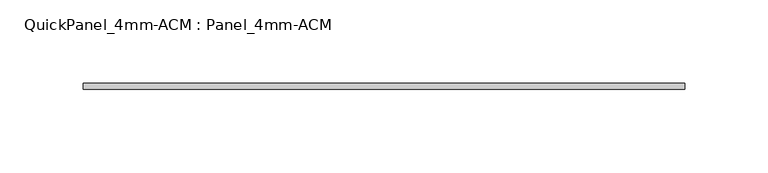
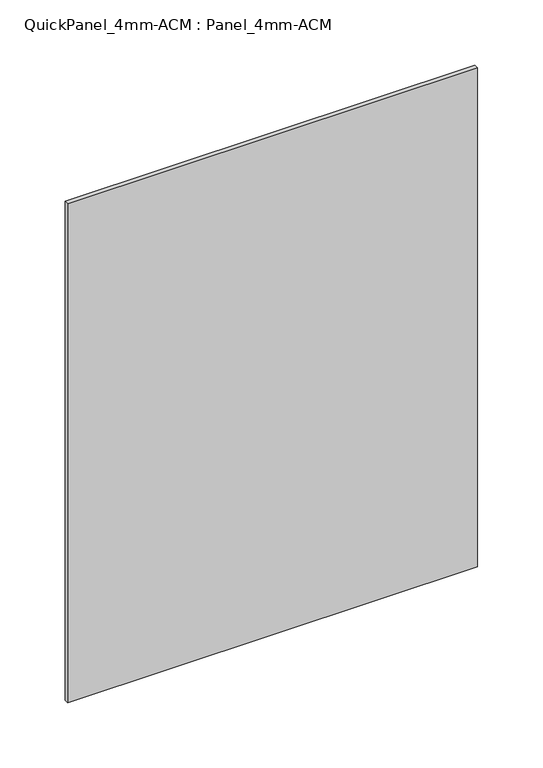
"""IFC4 building model written with IfcOpenShell, lengths in millimetres: plate geometry, QuickPanel_4mm-ACM : Panel_4mm-ACM."""

import ifcopenshell
import ifcopenshell.guid

model = None  # the IFC model being written
_history = None  # IfcOwnerHistory: only IFC2X3 demands one
_inside = {}  # id of a spatial element -> (the spatial element, [elements in it])
_under = {}  # id of a project, library or spatial element -> (it, [spatial elements below it])
_declared = {}  # id of a project -> (the project, [libraries it declares])
_typed = {}  # id of a type object -> (the type object, [elements of that type])
_made_of = {}  # id of a material, layer set ... -> (it, [elements and type objects made of it])


def new_model(schema):
    """Start an empty IFC model of exactly this schema.

    Asked for "IFC4X3", IfcOpenShell would pick the latest addendum, in which some entities
    have other attributes; the version numbers below select the first issue.
    IFC2X3 requires an IfcOwnerHistory on every rooted entity: one is made here for all.
    """
    global model, _history
    if schema == "IFC4X3":
        model = ifcopenshell.file(schema_version=(4, 3, 0, 0))
    else:
        model = ifcopenshell.file(schema=schema)
    _inside.clear()
    _under.clear()
    _declared.clear()
    _typed.clear()
    _made_of.clear()
    _history = None
    if model.schema == "IFC2X3":
        org = make("IfcOrganization", Name="unknown")
        user = make(
            "IfcPersonAndOrganization",
            ThePerson=make("IfcPerson", FamilyName="unknown"),
            TheOrganization=org,
        )
        app = make(
            "IfcApplication",
            ApplicationDeveloper=org,
            Version="unknown",
            ApplicationFullName="unknown",
            ApplicationIdentifier="unknown",
        )
        _history = make(
            "IfcOwnerHistory",
            OwningUser=user,
            OwningApplication=app,
            ChangeAction="ADDED",
            CreationDate=0,
        )
    return model


def make(cls, **values):
    """One entity of the class cls with the attributes given. An attribute that is None is left unset."""
    return model.create_entity(
        cls, **{name: value for name, value in values.items() if value is not None}
    )


def rooted(cls, **values):
    """An entity with a GlobalId (a new one), such as an element, a storey or a relation."""
    return make(cls, GlobalId=ifcopenshell.guid.new(), OwnerHistory=_history, **values)


def si_unit(unit_type, name, prefix=None):
    """IfcSIUnit, for example si_unit("LENGTHUNIT", "METRE", prefix="MILLI")."""
    return make("IfcSIUnit", UnitType=unit_type, Prefix=prefix, Name=name)


def assignment(units):
    """IfcUnitAssignment: the units of a project."""
    return None if units is None else make("IfcUnitAssignment", Units=units)


def point(xyz):
    """IfcCartesianPoint."""
    return None if xyz is None else make("IfcCartesianPoint", Coordinates=xyz)


def direction(xyz):
    """IfcDirection."""
    return None if xyz is None else make("IfcDirection", DirectionRatios=xyz)


def frame(location, z_axis=None, x_axis=None):
    """IfcAxis2Placement3D, a coordinate frame: its origin and axes. An axis left out is left unset."""
    return make(
        "IfcAxis2Placement3D",
        Location=point(location),
        Axis=direction(z_axis),
        RefDirection=direction(x_axis),
    )


def origin():
    """The frame at (0, 0, 0) with its axes left unset."""
    return frame((0.0, 0.0, 0.0))


def origin_with_axes():
    """The frame at (0, 0, 0) with the z axis (0, 0, 1) and the x axis (1, 0, 0) written out."""
    return frame((0.0, 0.0, 0.0), z_axis=(0.0, 0.0, 1.0), x_axis=(1.0, 0.0, 0.0))


def place(relative_to, where):
    """IfcLocalPlacement: puts the frame where relative to a parent placement (None: the world)."""
    return make(
        "IfcLocalPlacement", PlacementRelTo=relative_to, RelativePlacement=where
    )


def context(
    kind, dimensions, precision=None, world=None, true_north=None, identifier=None
):
    """IfcGeometricRepresentationContext, for example the 3D "Model" context."""
    return make(
        "IfcGeometricRepresentationContext",
        ContextIdentifier=identifier,
        ContextType=kind,
        CoordinateSpaceDimension=dimensions,
        Precision=precision,
        WorldCoordinateSystem=world,
        TrueNorth=true_north,
    )


def project(units=None, contexts=None):
    """IfcProject with its units and contexts."""
    return rooted(
        "IfcProject",
        Name="project",
        RepresentationContexts=contexts,
        UnitsInContext=assignment(units),
    )


def spatial(cls, under=None, at=None, **own):
    """A site, building, storey or space (cls), placed at a placement, below another one or the project."""
    s = rooted(cls, ObjectPlacement=at, **own)
    if under is not None:
        _under.setdefault(under.id(), (under, []))[1].append(s)
    return s


def polyline(points):
    """IfcPolyline through the points."""
    return make("IfcPolyline", Points=[point(p) for p in points])


def outline(outer, holes=None, kind="AREA"):
    """IfcArbitraryClosedProfileDef: a profile drawn as a closed curve; with holes, ...WithVoids."""
    if holes is None:
        return make("IfcArbitraryClosedProfileDef", ProfileType=kind, OuterCurve=outer)
    return make(
        "IfcArbitraryProfileDefWithVoids",
        ProfileType=kind,
        OuterCurve=outer,
        InnerCurves=holes,
    )


def extrude(swept, where, along, depth):
    """IfcExtrudedAreaSolid: the profile swept, set in the frame where, extruded along a direction by depth."""
    return make(
        "IfcExtrudedAreaSolid",
        SweptArea=swept,
        Position=where,
        ExtrudedDirection=direction(along),
        Depth=depth,
    )


def shape(context_of_items, identifier, shape_type, items):
    """IfcShapeRepresentation: the items that make up one representation, for example the "Body"."""
    return make(
        "IfcShapeRepresentation",
        ContextOfItems=context_of_items,
        RepresentationIdentifier=identifier,
        RepresentationType=shape_type,
        Items=items,
    )


def source(mapping_origin, context_of_items, identifier, shape_type, items):
    """IfcRepresentationMap: a shape defined once, which mapped items show again and again."""
    return make(
        "IfcRepresentationMap",
        MappingOrigin=mapping_origin,
        MappedRepresentation=shape(context_of_items, identifier, shape_type, items),
    )


def transform(
    local_origin,
    x_axis=None,
    y_axis=None,
    z_axis=None,
    scale=None,
    scale2=None,
    scale3=None,
    uniform=True,
):
    """IfcCartesianTransformationOperator3D, or its non-uniform kind. x_axis, y_axis, z_axis: its Axis1, 2, 3."""
    if uniform:
        return make(
            "IfcCartesianTransformationOperator3D",
            Axis1=direction(x_axis),
            Axis2=direction(y_axis),
            LocalOrigin=point(local_origin),
            Scale=scale,
            Axis3=direction(z_axis),
        )
    return make(
        "IfcCartesianTransformationOperator3DnonUniform",
        Axis1=direction(x_axis),
        Axis2=direction(y_axis),
        LocalOrigin=point(local_origin),
        Scale=scale,
        Axis3=direction(z_axis),
        Scale2=scale2,
        Scale3=scale3,
    )


def mapped(mapping_source, mapping_target):
    """IfcMappedItem: shows the shape of a source again, moved by a transform."""
    return make(
        "IfcMappedItem", MappingSource=mapping_source, MappingTarget=mapping_target
    )


def made_of(thing, what):
    """Note that an element or type object is made of a material, layer set ...; save() writes the relation."""
    if what is not None:
        _made_of.setdefault(what.id(), (what, []))[1].append(thing)
    return thing


def element(
    cls,
    number,
    at=None,
    inside=None,
    cuts=None,
    type_object=None,
    material=None,
    context=None,
    identifier="Body",
    shape_type=None,
    held_by="IfcProductDefinitionShape",
    body=None,
    shapes=None,
    **own,
):
    """One element of the class cls, such as IfcWall. Its Tag is "e" and its number.

    at: its placement. inside: the storey or other place that contains it. cuts: it is an
    opening in that element (IfcRelVoidsElement). A single representation is given by context,
    identifier, shape_type and body (its items); several are given by shapes. held_by: the class
    of the entity that holds the representations. save() writes the other relations.
    """
    e = rooted(cls, Tag="e%d" % number, ObjectPlacement=at, **own)
    if body is not None:
        shapes = [shape(context, identifier, shape_type, body)]
    if shapes is not None:
        e.Representation = make(held_by, Representations=shapes)
    if inside is not None:
        _inside.setdefault(inside.id(), (inside, []))[1].append(e)
    if cuts is not None:
        rooted(
            "IfcRelVoidsElement", RelatingBuildingElement=cuts, RelatedOpeningElement=e
        )
    if type_object is not None:
        _typed.setdefault(type_object.id(), (type_object, []))[1].append(e)
    return made_of(e, material)


def aggregate(whole, parts):
    """IfcRelAggregates: a whole, such as a stair, and the parts it consists of."""
    return rooted("IfcRelAggregates", RelatingObject=whole, RelatedObjects=parts)


def save(model, path):
    """Write the relations noted so far, then the file.

    IfcRelAggregates (storeys below a building ...), IfcRelContainedInSpatialStructure (elements
    in a storey), IfcRelDefinesByType, IfcRelAssociatesMaterial and IfcRelDeclares: one each for
    every whole, place, type object, material and project.
    """
    for whole, parts in _under.values():
        aggregate(whole, parts)
    for where, things in _inside.values():
        rooted(
            "IfcRelContainedInSpatialStructure",
            RelatedElements=things,
            RelatingStructure=where,
        )
    for kind, things in _typed.values():
        rooted("IfcRelDefinesByType", RelatedObjects=things, RelatingType=kind)
    for what, things in _made_of.values():
        rooted("IfcRelAssociatesMaterial", RelatedObjects=things, RelatingMaterial=what)
    for by, libraries in _declared.values():
        rooted("IfcRelDeclares", RelatingContext=by, RelatedDefinitions=libraries)
    model.write(path)


def quickpanel_4mm_acm_panel_4mm_acm_3d8c0663(model_context):
    return source(origin(), model_context, "Body", "SweptSolid", [
        extrude(outline(polyline([(-181.0107026, -6.096), (181.0107026, -6.096), (181.0107026, -9.906), (-181.0107026, -9.906), (-181.0107026, -6.096)])), origin_with_axes(), (0.0, 0.0, 1.0), 465.6618949),
    ])


if __name__ == "__main__":
    model = new_model("IFC4")
    model_context = context("Model", 3, world=origin())
    ifc_project = project(units=[si_unit("LENGTHUNIT", "METRE", prefix="MILLI")], contexts=[model_context])
    site = spatial("IfcSite", under=ifc_project)
    building = spatial("IfcBuilding", under=site)
    placement = place(None, origin())
    quickpanel_4mm_acm_panel_4mm_acm_shape = quickpanel_4mm_acm_panel_4mm_acm_3d8c0663(model_context)
    element("IfcPlate", 1, ObjectType="QuickPanel_4mm-ACM : Panel_4mm-ACM", at=placement, inside=building, context=model_context, shape_type="MappedRepresentation", body=[
        mapped(quickpanel_4mm_acm_panel_4mm_acm_shape, transform((0.0, 0.0, 0.0), x_axis=(1.0, 0.0, 0.0), y_axis=(0.0, 1.0, 0.0), z_axis=(0.0, 0.0, 1.0))),
    ])
    save(model, "model.ifc")
